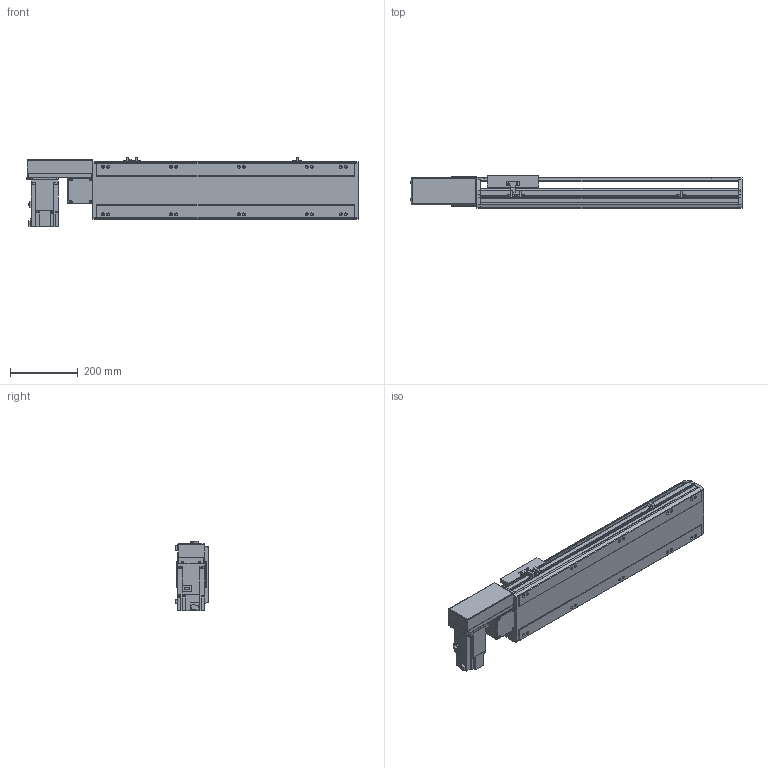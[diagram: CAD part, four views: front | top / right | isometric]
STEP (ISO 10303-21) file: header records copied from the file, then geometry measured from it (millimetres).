
FILE_DESCRIPTION( ( 'STEP AP214' ), '1' );
FILE_NAME( 'x:/temp/worker_4/temp/exporttempdir_2248_255_h3pmp/format_0/PBS170-P40-S500-R-T75-C1-N(0).stp', '2022-06-07T07:29:13', ( 'License CC BY-ND 4.0' ), ( 'CADENAS' ), ' ', 'PARTsolutions', ' ' );
FILE_SCHEMA( ( 'AUTOMOTIVE_DESIGN { 1 0 10303 214 1 1 1 1 }' ) );
Length unit declared in the file: millimetre
Products named in the file (7): PBS170-P40-S500-R-T75-C1-N(0); _PBS170-S500()_body; _PBS170T-R_motors; _T75-p1; _PBS170_sliser; _PBS170_plant; _PBS170_sensor
Assembly tree (8 placements, depth 2):
  PBS170-P40-S500-R-T75-C1-N(0)
    _PBS170-S500()_body
    _PBS170T-R_motors
    _T75-p1
    _PBS170_sliser
    _PBS170_plant
    _PBS170_sensor  x3
Bounding box: 978 x 97 x 205.3 mm (x, y, z)
Volume: 7426693.8 mm3; surface area: 1010761.2 mm2
Topology: 8 solids, 8 shells, 1034 faces, 2755 edges, 1796 vertices
Faces by surface type: plane 669, cylinder 315, cone 40, sphere 8, torus 2
Full cylindrical faces by diameter (mm): 3.242 x4, 4 x2, 4.4 x4, 4.5 x6, 4.917 x4, 6 x9, 6.647 x18, 7 x2, 7.5 x4, 8 x8, 8.5 x10, 10 x4, 10.5 x10, 11 x2, 30 x2, 40 x1, 70 x1
Entity records: 37814 total; most frequent: CARTESIAN_POINT 5717, DIRECTION 5090, ORIENTED_EDGE 4848, EDGE_CURVE 2424, AXIS2_PLACEMENT_3D 1747, VERTEX_POINT 1658, LINE 1596, VECTOR 1596
